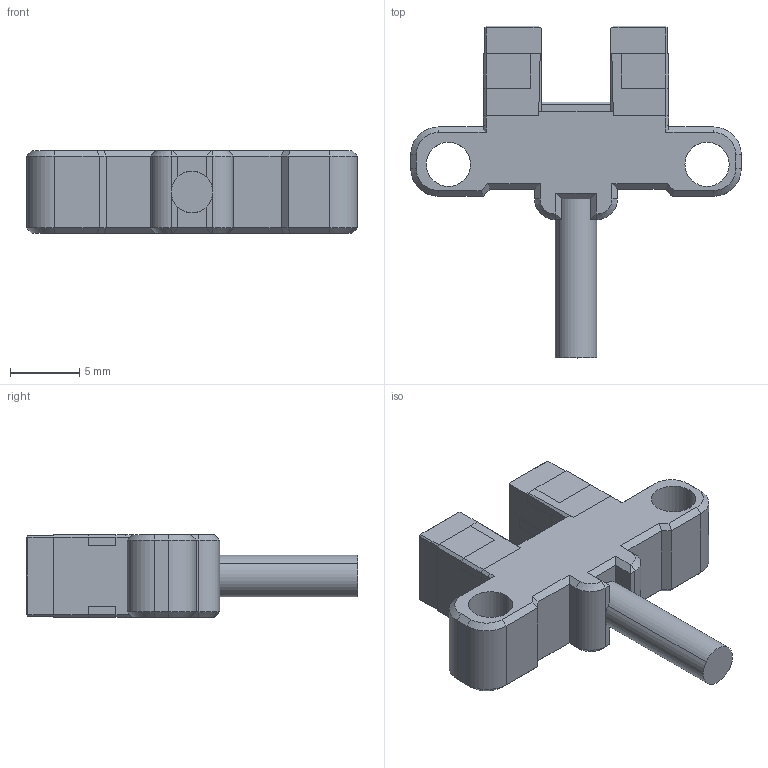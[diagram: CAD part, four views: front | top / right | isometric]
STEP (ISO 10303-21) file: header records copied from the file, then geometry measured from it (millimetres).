
FILE_DESCRIPTION (( 'STEP AP203' ), '1' );
FILE_NAME ('PU-K28.STEP', '2023-06-28T00:57:26', ( 'Windows User' ), ( 'P R C' ), 'SwSTEP 2.0', 'SolidWorks 2022', '' );
FILE_SCHEMA (( 'CONFIG_CONTROL_DESIGN' ));
Length unit declared in the file: millimetre
Products named in the file (4): DD990XXXX-GE-K25-A （外形尺寸图专用）; 红色外壳; 3导线^DD990XXXX-GE-K25-A(外形尺寸图专用模型); PU-K28
Assembly tree (3 placements, depth 2):
  PU-K28
    红色外壳
    3导线^DD990XXXX-GE-K25-A(外形尺寸图专用模型)
    DD990XXXX-GE-K25-A （外形尺寸图专用）
Bounding box: 23.9 x 24 x 6 mm (x, y, z)
Volume: 1156.6 mm3; surface area: 1818.6 mm2
Topology: 3 solids, 8 shells, 370 faces, 980 edges, 629 vertices
Faces by surface type: plane 303, cylinder 41, cone 18, bspline 8
Entity records: 12183 total; most frequent: CARTESIAN_POINT 2645, ORIENTED_EDGE 1960, DIRECTION 1779, EDGE_CURVE 980, VECTOR 853, LINE 853, VERTEX_POINT 629, AXIS2_PLACEMENT_3D 463
